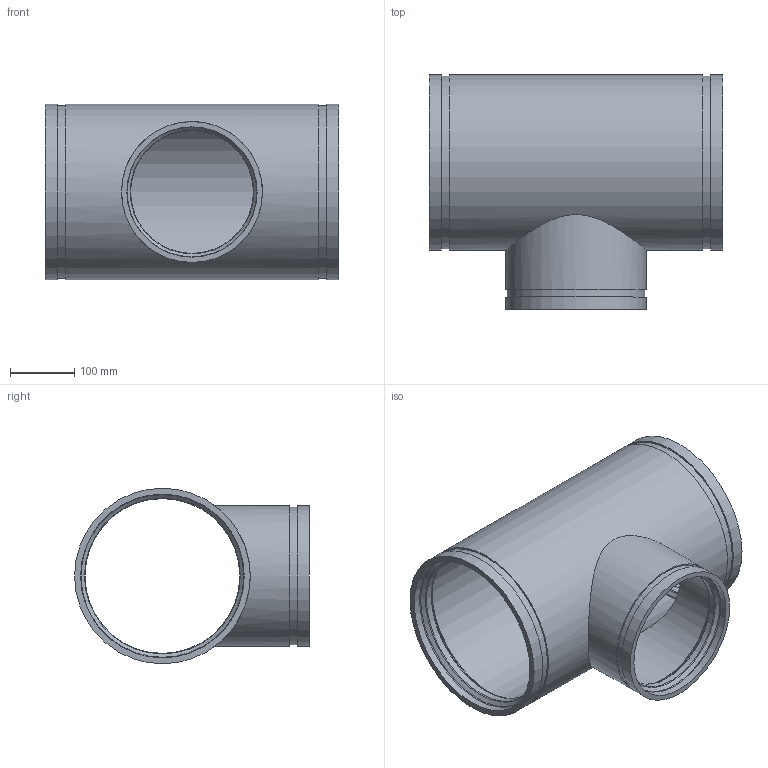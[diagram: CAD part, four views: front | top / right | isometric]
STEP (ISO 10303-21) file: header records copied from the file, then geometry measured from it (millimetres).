
FILE_DESCRIPTION(/* description */ ('VIC REDUCING TEE No 425H-SS','CAx-IF Rec.Pracs.---Representation and Presentation of Product Manufacturing Information (PMI)---4.0---2014-10-13'),/* implementation_level */ '2;1');
FILE_NAME(/* name */ 'C:\Users\kkamble\AppData\Roaming\Autodesk\ApplicationPlugins\Back Up\Victaulic_SS-OGS_Tee Reducing_Sched 40S_No 425H SS (OGS)\Victaulic_SS-OGS_Tee Reducing_Sched 40S_No 425H SS (OGS)_10.0x08.0 (250x200).stp',/* time_stamp */ '2020-08-27T17:20:31+06:00',/* author */ ('CORINNE GRAY'),/* organization */ ('Victaulic'),/* preprocessor_version */ 'ST-DEVELOPER v17.2',/* originating_system */ 'Autodesk Inventor 2019',/* authorisation */ '');
FILE_SCHEMA (('AP242_MANAGED_MODEL_BASED_3D_ENGINEERING_MIM_LF { 1 0 10303 442 1 1 4 }'));
Length unit declared in the file: inch
Products named in the file (1): 425H SS-10.0x08.0
Bounding box: 457.2 x 365.12 x 273.05 mm (x, y, z)
Volume: 4010917.2 mm3; surface area: 881321 mm2
Topology: 1 solids, 1 shells, 43 faces, 134 edges, 100 vertices
Faces by surface type: cylinder 16, torus 12, plane 9, cone 6
Full cylindrical faces by diameter (mm): 190.983 x1, 202.692 x2, 214.401 x1, 219.075 x2, 240.741 x2, 254.508 x3, 268.275 x2, 273.05 x3
Entity records: 1935 total; most frequent: CARTESIAN_POINT 443, DIRECTION 352, ORIENTED_EDGE 268, AXIS2_PLACEMENT_3D 165, EDGE_CURVE 134, CIRCLE 108, VERTEX_POINT 100, EDGE_LOOP 54
